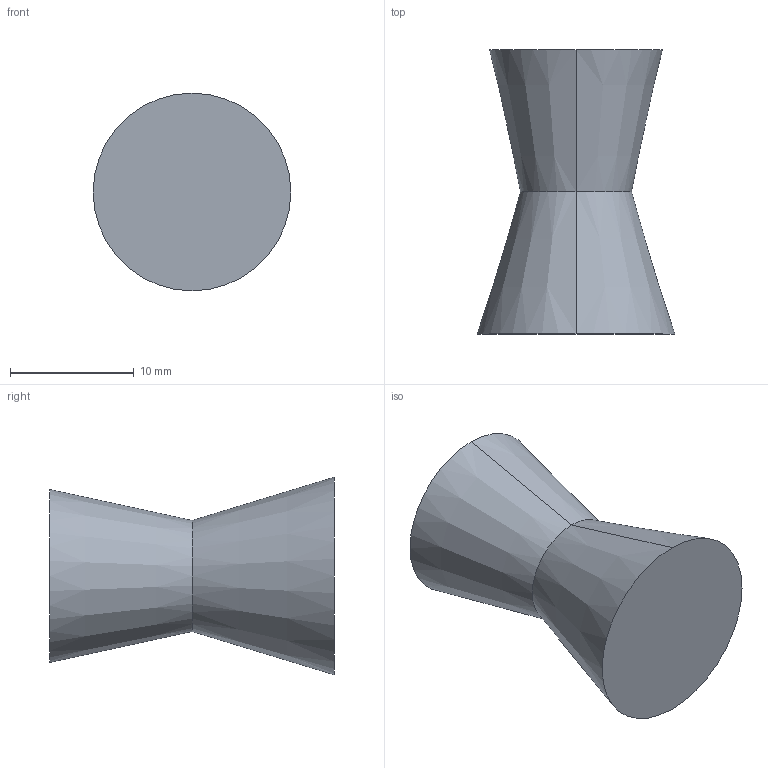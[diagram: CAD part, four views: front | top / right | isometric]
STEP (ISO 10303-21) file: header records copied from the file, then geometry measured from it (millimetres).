
FILE_DESCRIPTION( ( '' ), '1' );
FILE_NAME( 'C:/Documents and Settings/Nikhil/Desktop/Nik/Done/9113564.stp', '2013-10-23T10:35:24', ( '' ), ( '' ), ' ', ' ', ' ' );
FILE_SCHEMA( ( 'automotive_design' ) );
Length unit declared in the file: millimetre
Products named in the file (1): 1
Bounding box: 16 x 23 x 16 mm (x, y, z)
Volume: 2504.4 mm3; surface area: 1377.9 mm2
Topology: 1 solids, 1 shells, 9 faces, 16 edges, 10 vertices
Faces by surface type: cone 4, plane 3, cylinder 2
Entity records: 450 total; most frequent: DIRECTION 46, STYLED_ITEM 36, PRESENTATION_STYLE_ASSIGNMENT 36, CARTESIAN_POINT 36, COLOUR_RGB 36, ORIENTED_EDGE 32, AXIS2_PLACEMENT_3D 20, EDGE_CURVE 16
